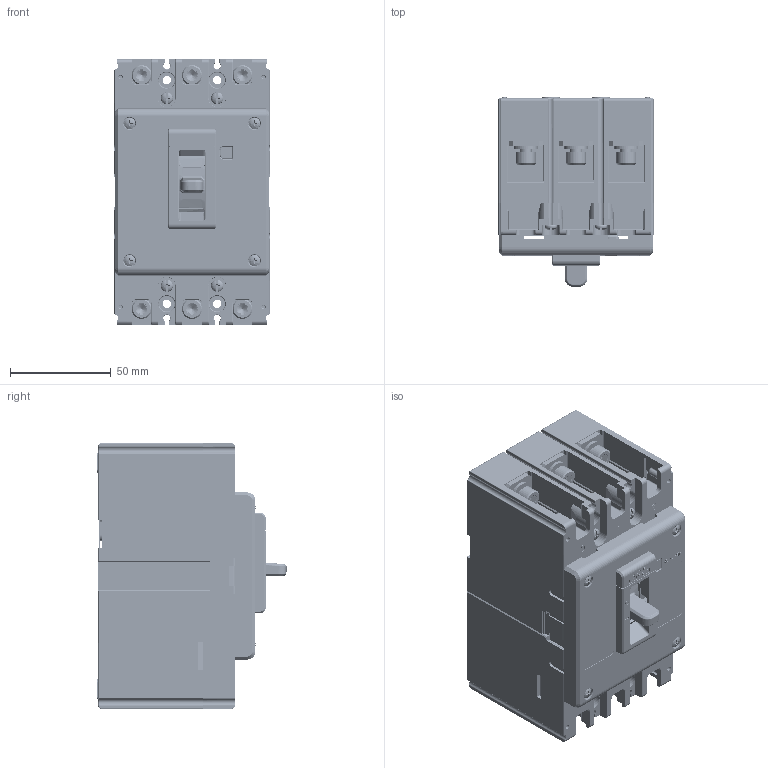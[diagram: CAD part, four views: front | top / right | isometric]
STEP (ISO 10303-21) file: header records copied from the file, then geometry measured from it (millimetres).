
FILE_DESCRIPTION((''),'2;1');
FILE_NAME('2253066500_ASM_SW0001','2025-02-17T',('youjie.zhu'),(''),'PRO/ENGINEER BY PARAMETRIC TECHNOLOGY CORPORATION, 2015440','PRO/ENGINEER BY PARAMETRIC TECHNOLOGY CORPORATION, 2015440','');
FILE_SCHEMA(('CONFIG_CONTROL_DESIGN'));
Products named in the file (1): 2253066500_ASM_SW0001
Bounding box: 77 x 93.99 x 132 mm (x, y, z)
Volume: 273455.2 mm3; surface area: 196528.6 mm2
Topology: 8 solids, 8 shells, 7320 faces, 19621 edges, 12123 vertices
Faces by surface type: plane 3265, cylinder 2393, torus 472, extrusion 424, sphere 310, cone 296, bspline 152, revolution 8
Entity records: 244016 total; most frequent: CARTESIAN_POINT 63116, ORIENTED_EDGE 38564, DIRECTION 36991, EDGE_CURVE 19282, AXIS2_PLACEMENT_3D 12565, VERTEX_POINT 12123, VECTOR 11853, LINE 11429
